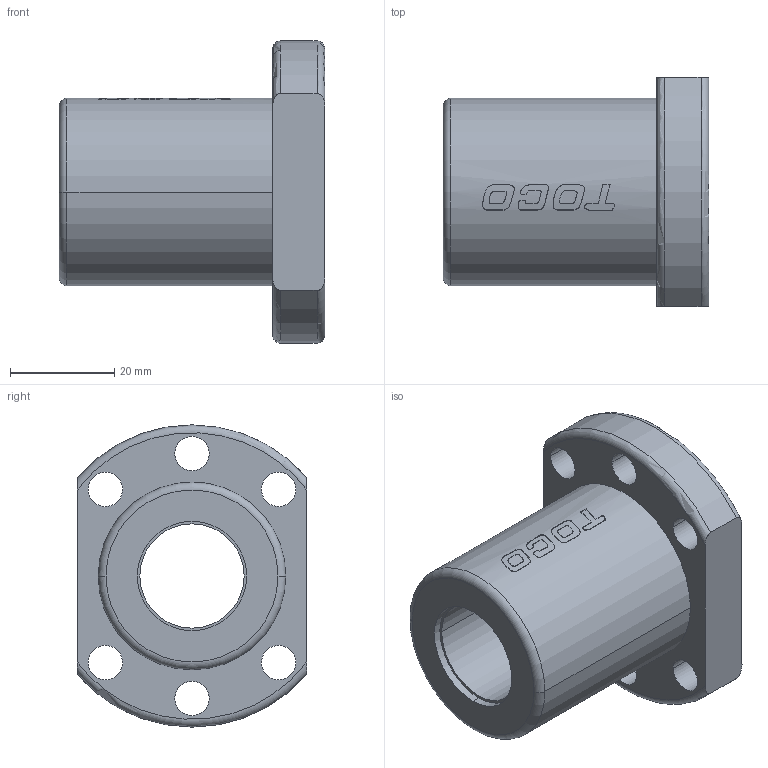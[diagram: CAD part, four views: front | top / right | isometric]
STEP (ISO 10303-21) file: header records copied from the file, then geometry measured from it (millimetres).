
FILE_DESCRIPTION (( 'STEP AP214' ), '1' );
FILE_NAME ('7.3100 STNUR2005T4D.STEP', '2026-03-02T13:28:21', ( '' ), ( '' ), 'SwSTEP 2.0', 'SolidWorks 2025', '' );
FILE_SCHEMA (( 'AUTOMOTIVE_DESIGN' ));
Length unit declared in the file: millimetre
Products named in the file (1): 7.3100 STNUR2005T4D
Bounding box: 51 x 44 x 58 mm (x, y, z)
Volume: 45951.2 mm3; surface area: 15388.2 mm2
Topology: 2 solids, 2 shells, 90 faces, 226 edges, 150 vertices
Faces by surface type: cylinder 34, bspline 26, plane 24, torus 6
Entity records: 10775 total; most frequent: CARTESIAN_POINT 8684, ORIENTED_EDGE 452, DIRECTION 355, EDGE_CURVE 226, VERTEX_POINT 150, AXIS2_PLACEMENT_3D 125, EDGE_LOOP 116, VECTOR 105
